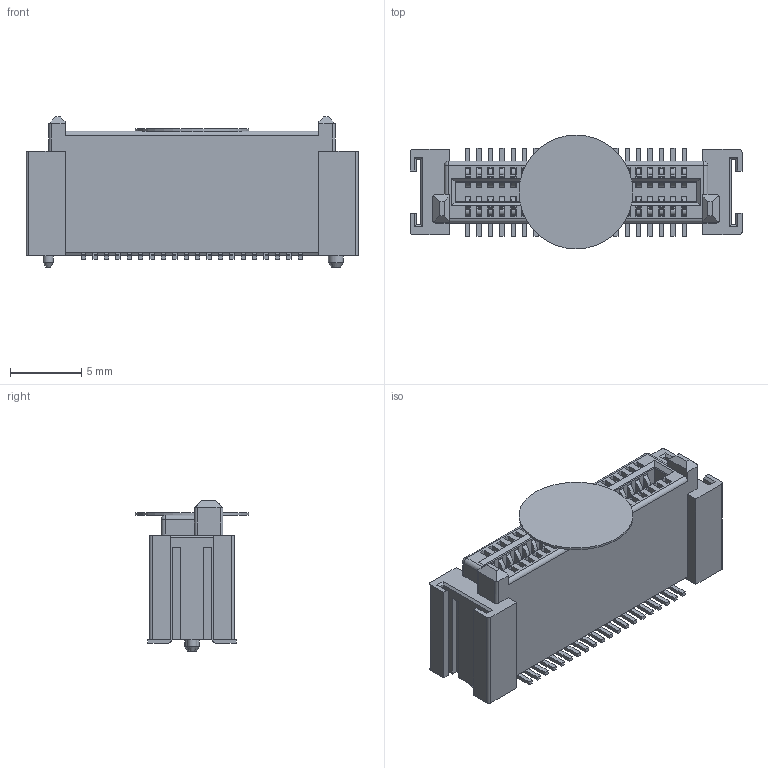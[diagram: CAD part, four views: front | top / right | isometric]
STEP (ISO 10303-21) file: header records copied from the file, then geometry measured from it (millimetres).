
FILE_DESCRIPTION(/* description */ (''),/* implementation_level */ '2;1');
FILE_NAME(/* name */ 'HC-PBB08C-1-40-F-H9.0-XX-R-P-06 _BTB0.8 单槽 D型母座 立贴 带柱 编带_-HCTL.stp',/* time_stamp */ '2026-10-26T13:54:17+08:00',/* author */ (''),/* organization */ (''),/* preprocessor_version */ 'ST-DEVELOPER v16',/* originating_system */ 'SIEMENS PLM Software NX 10.0',/* authorisation */ '');
FILE_SCHEMA (('AUTOMOTIVE_DESIGN { 1 0 10303 214 3 1 1 1 }'));
Length unit declared in the file: millimetre
Products named in the file (1): HC-PBB08C-1-40-F-H9.0-XX-R-P-06 _BTB0.8 单槽 D\X2\578B6BCD
5EA7\X0\ 立贴 带柱 编带_-HCTL
Bounding box: 23.3 x 8 x 10.55 mm (x, y, z)
Volume: 622.3 mm3; surface area: 2578.4 mm2
Topology: 42 solids, 42 shells, 1358 faces, 4072 edges, 2679 vertices
Faces by surface type: plane 937, cylinder 417, cone 2, sphere 2
Full cylindrical faces by diameter (mm): 0.7 x1, 1.05 x1, 8 x1
Entity records: 46005 total; most frequent: ORIENTED_EDGE 8128, CARTESIAN_POINT 8101, DIRECTION 7622, EDGE_CURVE 4064, LINE 3224, VECTOR 3224, VERTEX_POINT 2678, AXIS2_PLACEMENT_3D 2199
